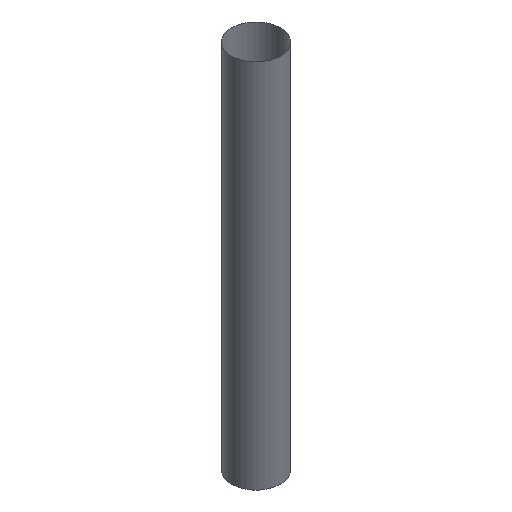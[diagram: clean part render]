
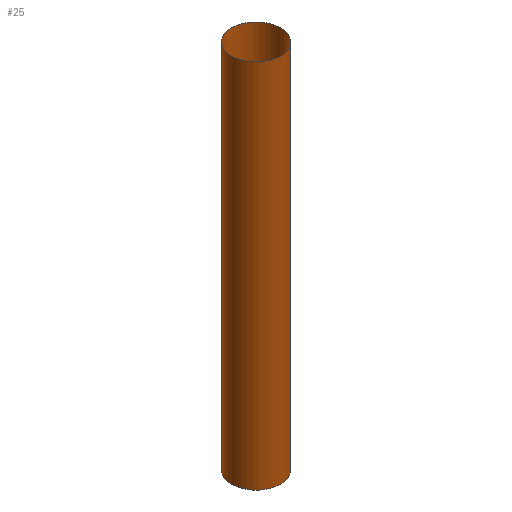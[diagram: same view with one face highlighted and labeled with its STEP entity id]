
A CAD part, isometric view. The second image highlights one B-rep face of the part: STEP entity #25.
In plain terms, the highlighted cylindrical face has radius 1.65 mm (diameter 3.3 mm), a full revolution.
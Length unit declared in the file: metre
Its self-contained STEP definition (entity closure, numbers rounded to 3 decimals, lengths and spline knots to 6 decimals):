
#12=ORIENTED_EDGE('',*,*,#14,.T.);
#13=ORIENTED_EDGE('',*,*,#15,.F.);
#14=EDGE_CURVE('',#16,#16,#18,.T.);
#15=EDGE_CURVE('',#17,#17,#19,.T.);
#16=VERTEX_POINT('',#53);
#17=VERTEX_POINT('',#55);
#18=CIRCLE('',#40,0.00165);
#19=CIRCLE('',#41,0.00165);
#20=EDGE_LOOP('',(#12));
#21=EDGE_LOOP('',(#13));
#22=FACE_BOUND('',#20,.T.);
#23=FACE_BOUND('',#21,.T.);
#24=CYLINDRICAL_SURFACE('',#39,0.00165);
#25=ADVANCED_FACE('',(#22,#23),#24,.F.);
#39=AXIS2_PLACEMENT_3D('',#51,#44,#45);
#40=AXIS2_PLACEMENT_3D('',#52,#46,#47);
#41=AXIS2_PLACEMENT_3D('',#54,#48,#49);
#44=DIRECTION('',(0.,0.,1.));
#45=DIRECTION('',(1.,0.,0.));
#46=DIRECTION('',(0.,0.,-1.));
#47=DIRECTION('',(-1.,0.,0.));
#48=DIRECTION('',(0.,0.,-1.));
#49=DIRECTION('',(-1.,0.,0.));
#51=CARTESIAN_POINT('',(0.037,0.0225,0.007));
#52=CARTESIAN_POINT('',(0.037,0.0225,0.007));
#53=CARTESIAN_POINT('',(0.03535,0.0225,0.007));
#54=CARTESIAN_POINT('',(0.037,0.0225,0.032));
#55=CARTESIAN_POINT('',(0.03535,0.0225,0.032));
